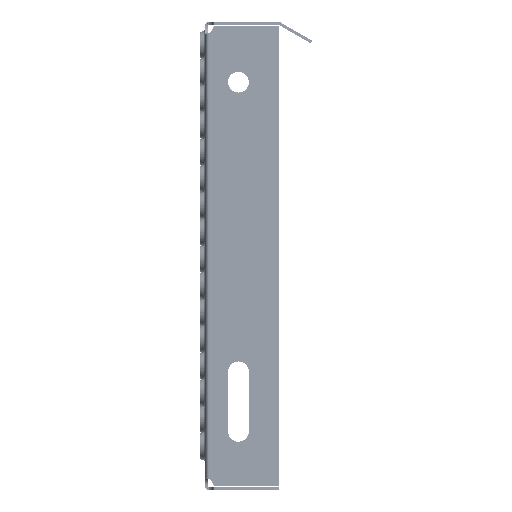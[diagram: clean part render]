
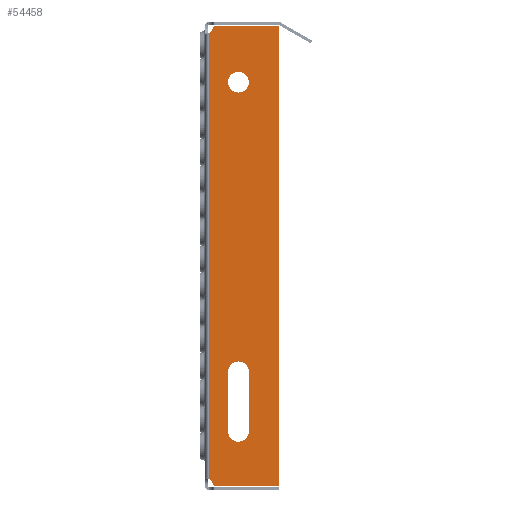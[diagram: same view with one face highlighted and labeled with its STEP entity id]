
A CAD part, left-side view. The second image highlights one B-rep face of the part: STEP entity #54458.
In plain terms, the highlighted planar face has unit normal (-1, 0, 0).
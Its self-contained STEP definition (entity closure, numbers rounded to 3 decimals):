
#446 = CARTESIAN_POINT ( 'NONE',  ( -450., -15.5, -90.5 ) ) ;
#1885 = CIRCLE ( 'NONE', #17781, 7. ) ;
#2550 = CIRCLE ( 'NONE', #62859, 1. ) ;
#3884 = CARTESIAN_POINT ( 'NONE',  ( -450., -0.5, 142. ) ) ;
#4540 = CIRCLE ( 'NONE', #23255, 5. ) ;
#4542 = CARTESIAN_POINT ( 'NONE',  ( -450., -50., -167. ) ) ;
#5249 = DIRECTION ( 'NONE',  ( 0., 1., 0. ) ) ;
#5499 = AXIS2_PLACEMENT_3D ( 'NONE', #16577, #63188, #23295 ) ;
#6157 = CARTESIAN_POINT ( 'NONE',  ( -450., -0.5, -167. ) ) ;
#7529 = ORIENTED_EDGE ( 'NONE', *, *, #44557, .T. ) ;
#8347 = EDGE_CURVE ( 'NONE', #35650, #21059, #64887, .T. ) ;
#9812 = ORIENTED_EDGE ( 'NONE', *, *, #73198, .T. ) ;
#9862 = FACE_BOUND ( 'NONE', #29053, .T. ) ;
#10570 = DIRECTION ( 'NONE',  ( 0., 0., -1. ) ) ;
#12857 = DIRECTION ( 'NONE',  ( 0., 0., -1. ) ) ;
#12979 = CARTESIAN_POINT ( 'NONE',  ( -450., -6.416, -166. ) ) ;
#13755 = AXIS2_PLACEMENT_3D ( 'NONE', #26081, #72761, #32809 ) ;
#13866 = VECTOR ( 'NONE', #27100, 1000. ) ;
#14621 = CARTESIAN_POINT ( 'NONE',  ( -450., -50., -167. ) ) ;
#14695 = EDGE_CURVE ( 'NONE', #14798, #14798, #73645, .T. ) ;
#14798 = VERTEX_POINT ( 'NONE', #78622 ) ;
#14930 = AXIS2_PLACEMENT_3D ( 'NONE', #3884, #50455, #10570 ) ;
#15615 = EDGE_CURVE ( 'NONE', #70047, #26368, #2550, .T. ) ;
#15915 = AXIS2_PLACEMENT_3D ( 'NONE', #37278, #83967, #43970 ) ;
#16577 = CARTESIAN_POINT ( 'NONE',  ( -450., -6.416, 141. ) ) ;
#17781 = AXIS2_PLACEMENT_3D ( 'NONE', #36131, #82807, #42818 ) ;
#18367 = CARTESIAN_POINT ( 'NONE',  ( -450., -50., 142. ) ) ;
#18595 = ORIENTED_EDGE ( 'NONE', *, *, #35725, .T. ) ;
#19663 = DIRECTION ( 'NONE',  ( 0., 0., -1. ) ) ;
#19733 = VERTEX_POINT ( 'NONE', #60991 ) ;
#20517 = DIRECTION ( 'NONE',  ( 0., 0., -1. ) ) ;
#21059 = VERTEX_POINT ( 'NONE', #26846 ) ;
#21620 = VECTOR ( 'NONE', #78345, 1000. ) ;
#22229 = EDGE_CURVE ( 'NONE', #21059, #24248, #36480, .T. ) ;
#23255 = AXIS2_PLACEMENT_3D ( 'NONE', #6157, #52723, #12857 ) ;
#23295 = DIRECTION ( 'NONE',  ( 0., 0., 1. ) ) ;
#23384 = FACE_OUTER_BOUND ( 'NONE', #84952, .T. ) ;
#23619 = AXIS2_PLACEMENT_3D ( 'NONE', #29380, #69622, #29663 ) ;
#24248 = VERTEX_POINT ( 'NONE', #34177 ) ;
#26081 = CARTESIAN_POINT ( 'NONE',  ( -450., -22.5, -130.5 ) ) ;
#26368 = VERTEX_POINT ( 'NONE', #43165 ) ;
#26846 = CARTESIAN_POINT ( 'NONE',  ( -450., -15.5, -130.5 ) ) ;
#27094 = VERTEX_POINT ( 'NONE', #83022 ) ;
#27100 = DIRECTION ( 'NONE',  ( 0., -1., 0. ) ) ;
#28299 = VERTEX_POINT ( 'NONE', #14621 ) ;
#29053 = EDGE_LOOP ( 'NONE', ( #39083, #66519, #44252, #75135 ) ) ;
#29217 = EDGE_CURVE ( 'NONE', #24248, #40498, #74838, .T. ) ;
#29380 = CARTESIAN_POINT ( 'NONE',  ( -450., 0.5, -172.916 ) ) ;
#29446 = VECTOR ( 'NONE', #20517, 1000. ) ;
#29663 = DIRECTION ( 'NONE',  ( 0., 0., -1. ) ) ;
#31727 = CARTESIAN_POINT ( 'NONE',  ( -450., -29.5, -90.5 ) ) ;
#32809 = DIRECTION ( 'NONE',  ( 0., 0., -1. ) ) ;
#32988 = EDGE_CURVE ( 'NONE', #28299, #76357, #71675, .T. ) ;
#34177 = CARTESIAN_POINT ( 'NONE',  ( -450., -29.5, -130.5 ) ) ;
#34267 = ORIENTED_EDGE ( 'NONE', *, *, #32988, .T. ) ;
#35650 = VERTEX_POINT ( 'NONE', #51862 ) ;
#35725 = EDGE_CURVE ( 'NONE', #19733, #70047, #4540, .T. ) ;
#35839 = EDGE_CURVE ( 'NONE', #26368, #28299, #84819, .T. ) ;
#36131 = CARTESIAN_POINT ( 'NONE',  ( -450., -22.5, -90.5 ) ) ;
#36162 = VECTOR ( 'NONE', #77975, 1000. ) ;
#36480 = CIRCLE ( 'NONE', #13755, 7. ) ;
#37024 = ORIENTED_EDGE ( 'NONE', *, *, #35839, .T. ) ;
#37278 = CARTESIAN_POINT ( 'NONE',  ( -450., -22.5, 104.5 ) ) ;
#39000 = DIRECTION ( 'NONE',  ( 0., 0., 1. ) ) ;
#39083 = ORIENTED_EDGE ( 'NONE', *, *, #8347, .F. ) ;
#40290 = CARTESIAN_POINT ( 'NONE',  ( -450., -5.43, -166.167 ) ) ;
#40498 = VERTEX_POINT ( 'NONE', #31727 ) ;
#42271 = CIRCLE ( 'NONE', #14930, 5. ) ;
#42818 = DIRECTION ( 'NONE',  ( 0., 0., -1. ) ) ;
#43165 = CARTESIAN_POINT ( 'NONE',  ( -450., -6.416, -167. ) ) ;
#43895 = EDGE_CURVE ( 'NONE', #63554, #70455, #42271, .T. ) ;
#43970 = DIRECTION ( 'NONE',  ( 0., 0., -1. ) ) ;
#44252 = ORIENTED_EDGE ( 'NONE', *, *, #29217, .F. ) ;
#44557 = EDGE_CURVE ( 'NONE', #27094, #63554, #65094, .T. ) ;
#46332 = ORIENTED_EDGE ( 'NONE', *, *, #53846, .F. ) ;
#49745 = VECTOR ( 'NONE', #5249, 1000. ) ;
#50455 = DIRECTION ( 'NONE',  ( 1., 0., 0. ) ) ;
#51471 = CARTESIAN_POINT ( 'NONE',  ( -450., -29.5, -90.5 ) ) ;
#51829 = ORIENTED_EDGE ( 'NONE', *, *, #43895, .T. ) ;
#51862 = CARTESIAN_POINT ( 'NONE',  ( -450., -15.5, -90.5 ) ) ;
#52091 = CARTESIAN_POINT ( 'NONE',  ( -450., -3., -172.916 ) ) ;
#52723 = DIRECTION ( 'NONE',  ( 1., 0., 0. ) ) ;
#53846 = EDGE_CURVE ( 'NONE', #19733, #70455, #72395, .T. ) ;
#54458 = ADVANCED_FACE ( 'NONE', ( #23384, #74519, #9862 ), #62578, .F. ) ;
#59579 = DIRECTION ( 'NONE',  ( -1., 0., 0. ) ) ;
#60411 = ORIENTED_EDGE ( 'NONE', *, *, #15615, .T. ) ;
#60991 = CARTESIAN_POINT ( 'NONE',  ( -450., -3., -162.67 ) ) ;
#61003 = CARTESIAN_POINT ( 'NONE',  ( -450., -5.43, 141.167 ) ) ;
#62578 = PLANE ( 'NONE',  #23619 ) ;
#62859 = AXIS2_PLACEMENT_3D ( 'NONE', #12979, #59579, #19663 ) ;
#63188 = DIRECTION ( 'NONE',  ( -1., 0., 0. ) ) ;
#63554 = VERTEX_POINT ( 'NONE', #61003 ) ;
#64887 = LINE ( 'NONE', #446, #29446 ) ;
#65094 = CIRCLE ( 'NONE', #5499, 1. ) ;
#65517 = ORIENTED_EDGE ( 'NONE', *, *, #14695, .F. ) ;
#66519 = ORIENTED_EDGE ( 'NONE', *, *, #72951, .F. ) ;
#67028 = CARTESIAN_POINT ( 'NONE',  ( -450., -6.416, -167. ) ) ;
#69622 = DIRECTION ( 'NONE',  ( 1., 0., 0. ) ) ;
#70047 = VERTEX_POINT ( 'NONE', #40290 ) ;
#70434 = EDGE_LOOP ( 'NONE', ( #65517 ) ) ;
#70455 = VERTEX_POINT ( 'NONE', #77869 ) ;
#71675 = LINE ( 'NONE', #4542, #36162 ) ;
#72395 = LINE ( 'NONE', #52091, #76556 ) ;
#72761 = DIRECTION ( 'NONE',  ( -1., 0., 0. ) ) ;
#72951 = EDGE_CURVE ( 'NONE', #40498, #35650, #1885, .T. ) ;
#73198 = EDGE_CURVE ( 'NONE', #76357, #27094, #83169, .T. ) ;
#73645 = CIRCLE ( 'NONE', #15915, 7. ) ;
#74519 = FACE_BOUND ( 'NONE', #70434, .T. ) ;
#74838 = LINE ( 'NONE', #51471, #21620 ) ;
#75135 = ORIENTED_EDGE ( 'NONE', *, *, #22229, .F. ) ;
#76357 = VERTEX_POINT ( 'NONE', #84770 ) ;
#76556 = VECTOR ( 'NONE', #39000, 1000. ) ;
#77869 = CARTESIAN_POINT ( 'NONE',  ( -450., -3., 137.67 ) ) ;
#77975 = DIRECTION ( 'NONE',  ( 0., 0., 1. ) ) ;
#78345 = DIRECTION ( 'NONE',  ( 0., 0., 1. ) ) ;
#78622 = CARTESIAN_POINT ( 'NONE',  ( -450., -22.5, 97.5 ) ) ;
#82807 = DIRECTION ( 'NONE',  ( -1., 0., 0. ) ) ;
#83022 = CARTESIAN_POINT ( 'NONE',  ( -450., -6.416, 142. ) ) ;
#83169 = LINE ( 'NONE', #18367, #49745 ) ;
#83967 = DIRECTION ( 'NONE',  ( -1., 0., 0. ) ) ;
#84770 = CARTESIAN_POINT ( 'NONE',  ( -450., -50., 142. ) ) ;
#84819 = LINE ( 'NONE', #67028, #13866 ) ;
#84952 = EDGE_LOOP ( 'NONE', ( #46332, #18595, #60411, #37024, #34267, #9812, #7529, #51829 ) ) ;
